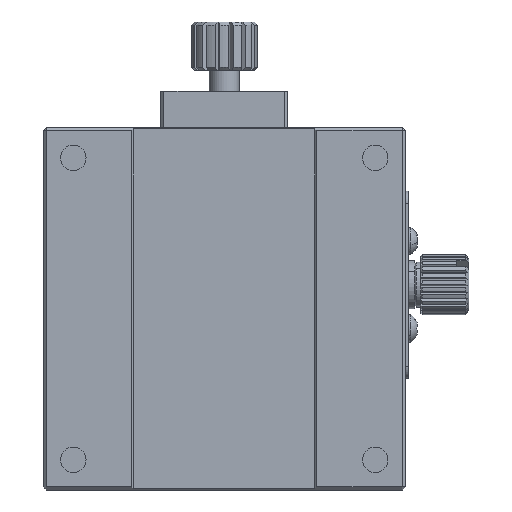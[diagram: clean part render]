
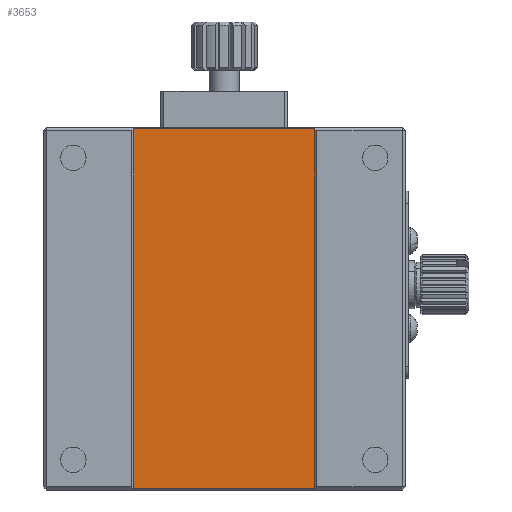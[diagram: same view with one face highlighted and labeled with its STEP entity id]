
A CAD part, front view. The second image highlights one B-rep face of the part: STEP entity #3653.
In plain terms, the highlighted planar face has unit normal (0, -1, 0).
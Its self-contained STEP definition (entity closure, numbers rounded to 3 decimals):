
#68 = CARTESIAN_POINT ( 'NONE',  ( -15., 0.3, -29.8 ) ) ;
#564 = CARTESIAN_POINT ( 'NONE',  ( 15., 0.3, 29.8 ) ) ;
#648 = DIRECTION ( 'NONE',  ( 0., 1., 0. ) ) ;
#658 = VECTOR ( 'NONE', #7908, 1000. ) ;
#1379 = VERTEX_POINT ( 'NONE', #9421 ) ;
#2189 = VERTEX_POINT ( 'NONE', #24340 ) ;
#2716 = VECTOR ( 'NONE', #12060, 1000. ) ;
#3336 = LINE ( 'NONE', #10061, #2716 ) ;
#3653 = ADVANCED_FACE ( 'NONE', ( #7679 ), #20313, .F. ) ;
#3723 = DIRECTION ( 'NONE',  ( 0., 0., 1. ) ) ;
#3948 = CARTESIAN_POINT ( 'NONE',  ( 0., 0.3, 29.8 ) ) ;
#5764 = EDGE_LOOP ( 'NONE', ( #8040, #8094, #22937, #6683 ) ) ;
#6362 = EDGE_CURVE ( 'NONE', #17659, #1379, #22340, .T. ) ;
#6683 = ORIENTED_EDGE ( 'NONE', *, *, #21439, .T. ) ;
#7679 = FACE_OUTER_BOUND ( 'NONE', #5764, .T. ) ;
#7908 = DIRECTION ( 'NONE',  ( -1., 0., 0. ) ) ;
#8040 = ORIENTED_EDGE ( 'NONE', *, *, #6362, .F. ) ;
#8094 = ORIENTED_EDGE ( 'NONE', *, *, #12045, .T. ) ;
#8346 = CARTESIAN_POINT ( 'NONE',  ( -15., 0.3, -30. ) ) ;
#9050 = AXIS2_PLACEMENT_3D ( 'NONE', #24267, #648, #14480 ) ;
#9421 = CARTESIAN_POINT ( 'NONE',  ( -15., 0.3, 29.8 ) ) ;
#10061 = CARTESIAN_POINT ( 'NONE',  ( -30., 0.3, -29.8 ) ) ;
#11269 = VECTOR ( 'NONE', #18183, 1000. ) ;
#12045 = EDGE_CURVE ( 'NONE', #17659, #2189, #3336, .T. ) ;
#12060 = DIRECTION ( 'NONE',  ( 1., 0., 0. ) ) ;
#12517 = LINE ( 'NONE', #23420, #17735 ) ;
#14103 = VERTEX_POINT ( 'NONE', #564 ) ;
#14480 = DIRECTION ( 'NONE',  ( -1., 0., 0. ) ) ;
#17659 = VERTEX_POINT ( 'NONE', #68 ) ;
#17735 = VECTOR ( 'NONE', #3723, 1000. ) ;
#18183 = DIRECTION ( 'NONE',  ( 0., 0., 1. ) ) ;
#19665 = EDGE_CURVE ( 'NONE', #2189, #14103, #12517, .T. ) ;
#20313 = PLANE ( 'NONE',  #9050 ) ;
#21017 = LINE ( 'NONE', #3948, #658 ) ;
#21439 = EDGE_CURVE ( 'NONE', #14103, #1379, #21017, .T. ) ;
#22340 = LINE ( 'NONE', #8346, #11269 ) ;
#22937 = ORIENTED_EDGE ( 'NONE', *, *, #19665, .T. ) ;
#23420 = CARTESIAN_POINT ( 'NONE',  ( 15., 0.3, -30. ) ) ;
#24267 = CARTESIAN_POINT ( 'NONE',  ( 15., 0.3, -30. ) ) ;
#24340 = CARTESIAN_POINT ( 'NONE',  ( 15., 0.3, -29.8 ) ) ;
